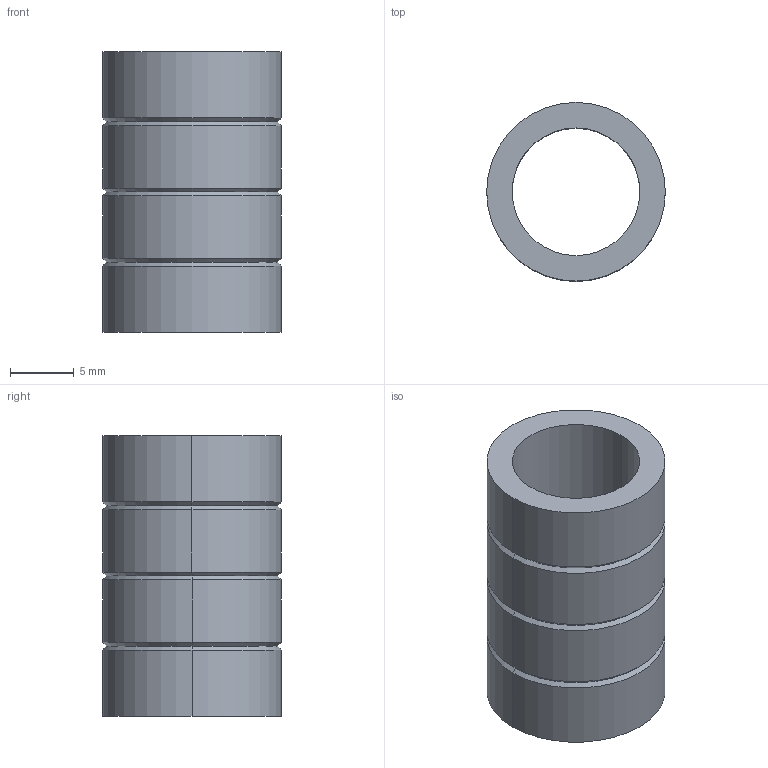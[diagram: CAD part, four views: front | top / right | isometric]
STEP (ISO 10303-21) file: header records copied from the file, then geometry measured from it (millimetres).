
FILE_DESCRIPTION(/* description */ (''),/* implementation_level */ '2;1');
FILE_NAME(/* name */ '3d_sgbl10-22_00003_r00.stp',/* time_stamp */ '2011-01-10T14:11:13+09:00',/* author */ ('MISUMI'),/* organization */ (''),/* preprocessor_version */ 'ST-DEVELOPER v11',/* originating_system */ 'UGS - NX 5.0',/* authorisation */ '');
FILE_SCHEMA (('CONFIG_CONTROL_DESIGN'));
Length unit declared in the file: millimetre
Products named in the file (1): 3d_sgbl10-22_00003_r00
Bounding box: 14 x 14 x 22 mm (x, y, z)
Volume: 1647.1 mm3; surface area: 1840 mm2
Topology: 1 solids, 1 shells, 24 faces, 48 edges, 26 vertices
Faces by surface type: cone 12, cylinder 10, plane 2
Entity records: 704 total; most frequent: DIRECTION 124, CARTESIAN_POINT 99, ORIENTED_EDGE 96, AXIS2_PLACEMENT_3D 51, EDGE_CURVE 48, EDGE_LOOP 26, VERTEX_POINT 26, CIRCLE 26
